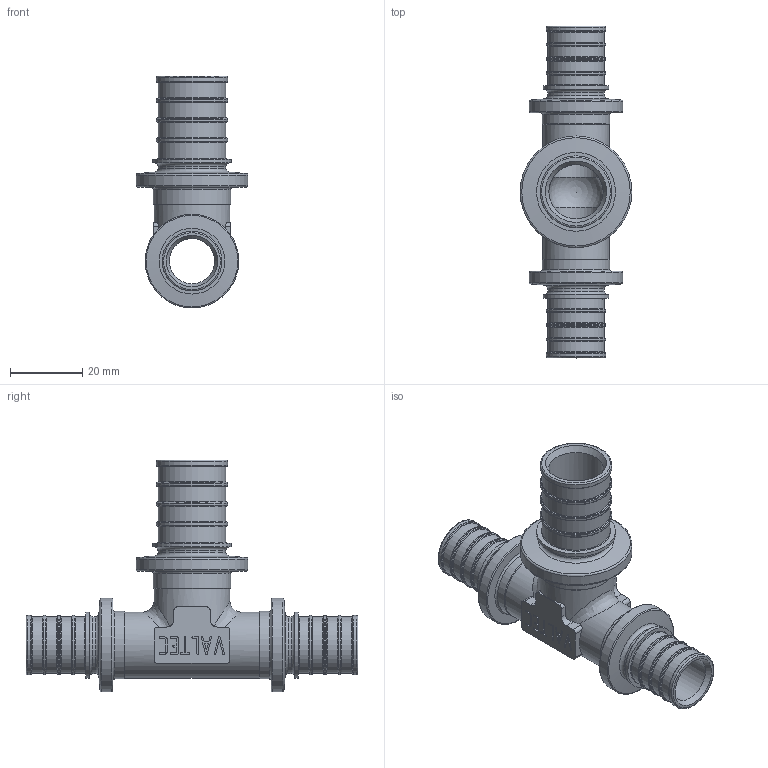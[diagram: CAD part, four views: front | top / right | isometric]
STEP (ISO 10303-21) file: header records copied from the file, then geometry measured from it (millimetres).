
FILE_DESCRIPTION(('STEP AP203'), '1');
FILE_NAME('覆.752241.011 - VTm.431.G.202520 秮鍣. 縺鳱', '', ('UNSPECIFIED'), ('UNSPECIFIED'), 'C3D Converter', 'C3D Toolkit', '');
FILE_SCHEMA(('CONFIG_CONTROL_DESIGN'));
Length unit declared in the file: millimetre
Products named in the file (1): ВР.752241.011
Bounding box: 30.9 x 91.8 x 64.15 mm (x, y, z)
Volume: 20125.9 mm3; surface area: 16445.1 mm2
Topology: 1 solids, 1 shells, 405 faces, 1034 edges, 659 vertices
Faces by surface type: extrusion 142, plane 131, torus 63, cylinder 57, cone 9, bspline 2, sphere 1
Full cylindrical faces by diameter (mm): 12.5 x2, 15 x1, 15.7 x10, 16.5 x8, 18.2 x2, 18.3 x1, 18.7 x2, 18.8 x5, 19.8 x4, 21 x1, 21.4 x1, 21.8 x1, 25.9 x2, 30.9 x1
Entity records: 16184 total; most frequent: CARTESIAN_POINT 4084, ORIENTED_EDGE 1836, DIRECTION 1426, EDGE_CURVE 918, VERTEX_POINT 658, VECTOR 582, EDGE_LOOP 552, B_SPLINE_CURVE_WITH_KNOTS 460
